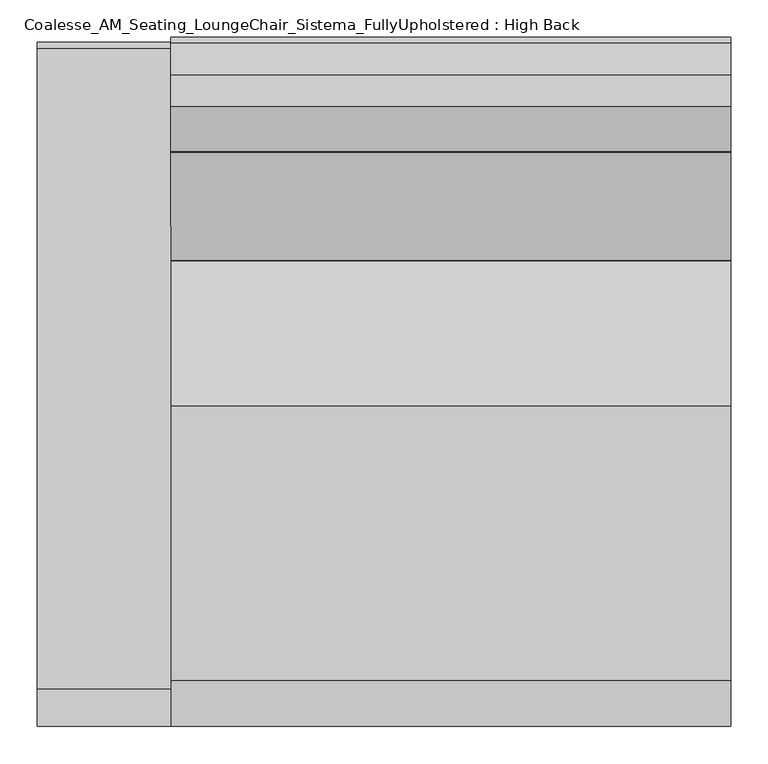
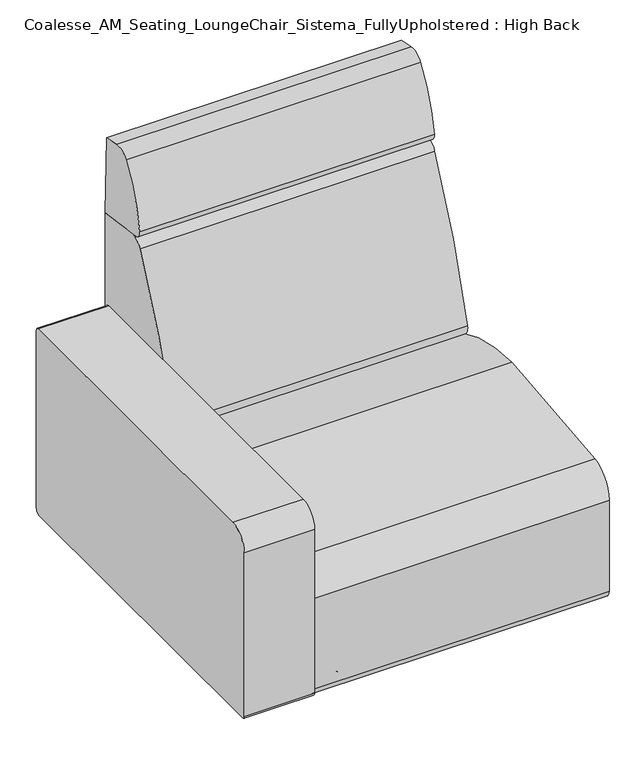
"""IFC4 building model written with IfcOpenShell, lengths in millimetres: furniture geometry, Coalesse_AM_Seating_LoungeChair_Sistema_FullyUpholstered : High Back."""

from ifc_helpers import new_model, si_unit, point, frame, frame_2d, origin, place, context, project, spatial, polyline, circle_curve, ellipse_curve, trimmed, segment, composite_curve, outline, extrude, source, transform, mapped, element, save
from ifc_brep_helpers import plane_surface, cylinder_surface, revolved_surface, advanced_brep


def coalesse_am_seating_loungechair_sistema_fullyupholstered_554325c9(model_context):
    return source(origin(), model_context, "Body", "SolidModel", [
        advanced_brep(
        [(-437.0342435, 376.5697714, 32.0111214), (-473.307853, 376.5697714, 32.0111214), (-473.307853, 376.5697714, 16.5557542), (-437.0342435, 376.5697714, 16.5557542), (-474.6015336, 376.5697714, 14.0167632), (-435.740563, 376.5697714, 14.0167632), (-478.9735198, 376.5697714, 10.8824382), (-431.3685767, 376.5697714, 10.8824382), (-480.1597362, 376.5697714, 8.4680454), (-430.1823604, 376.5697714, 8.4680454), (-480.1597362, 376.5697714, 3.1081764), (-430.1823604, 376.5697714, 3.1081764), (-476.5633616, 376.5697714, 0.0), (-433.7787349, 376.5697714, 0.0), (-455.1710483, 376.5697714, 0.0), (-455.1710483, 376.5697714, 34.4679682), (-462.2858273, 376.5697714, 34.4679682), (-448.0562693, 376.5697714, 34.4679682), (-462.2858273, 376.5697714, 32.0111214), (-448.0562693, 376.5697714, 32.0111214)],
        [
            (0, 1, circle_curve(frame((-455.1710483, 376.5697714, 32.0111214), z_axis=(0.0, 0.0, -1.0), x_axis=(-1.0, 0.0, 0.0)), 18.1368048)),
            (1, 2),
            (2, 3, circle_curve(frame((-455.1710483, 376.5697714, 16.5557542), z_axis=(0.0, 0.0, 1.0), x_axis=(-1.0, 0.0, 0.0)), 18.1368048)),
            (3, 0),
            (1, 0, circle_curve(frame((-455.1710483, 376.5697714, 32.0111214), z_axis=(0.0, 0.0, -1.0), x_axis=(-1.0, 0.0, 0.0)), 18.1368048)),
            (3, 2, circle_curve(frame((-455.1710483, 376.5697714, 16.5557542), z_axis=(0.0, 0.0, 1.0), x_axis=(-1.0, 0.0, 0.0)), 18.1368048)),
            (2, 4),
            (4, 5, circle_curve(frame((-455.1710483, 376.5697714, 14.0167632), z_axis=(0.0, 0.0, 1.0), x_axis=(-1.0, 0.0, 0.0)), 19.4304853)),
            (5, 3),
            (5, 4, circle_curve(frame((-455.1710483, 376.5697714, 14.0167632), z_axis=(0.0, 0.0, 1.0), x_axis=(-1.0, 0.0, 0.0)), 19.4304853)),
            (4, 6, circle_curve(frame((-432.6195632, 376.5697714, -49.1591113), z_axis=(0.0, -1.0, 0.0), x_axis=(1.0, 0.0, 0.0)), 75.8529957)),
            (6, 7, circle_curve(frame((-455.1710483, 376.5697714, 10.8824382), z_axis=(0.0, 0.0, 1.0), x_axis=(-1.0, 0.0, 0.0)), 23.8024715)),
            (7, 5, circle_curve(frame((-477.7225333, 376.5697714, -49.1591113), z_axis=(0.0, -1.0, 0.0), x_axis=(-1.0, 0.0, 0.0)), 75.8529957)),
            (7, 6, circle_curve(frame((-455.1710483, 376.5697714, 10.8824382), z_axis=(0.0, 0.0, 1.0), x_axis=(-1.0, 0.0, 0.0)), 23.8024715)),
            (6, 8, circle_curve(frame((-477.109533, 376.5697714, 8.4680454), z_axis=(0.0, -1.0, 0.0), x_axis=(1.0, 0.0, 0.0)), 3.0502032)),
            (8, 9, circle_curve(frame((-455.1710483, 376.5697714, 8.4680454), z_axis=(0.0, 0.0, 1.0), x_axis=(-1.0, 0.0, 0.0)), 24.9886879)),
            (9, 7, circle_curve(frame((-433.2325636, 376.5697714, 8.4680454), z_axis=(0.0, -1.0, 0.0), x_axis=(-1.0, 0.0, 0.0)), 3.0502032)),
            (9, 8, circle_curve(frame((-455.1710483, 376.5697714, 8.4680454), z_axis=(0.0, 0.0, 1.0), x_axis=(-1.0, 0.0, 0.0)), 24.9886879)),
            (8, 10),
            (10, 11, circle_curve(frame((-455.1710483, 376.5697714, 3.1081764), z_axis=(0.0, 0.0, 1.0), x_axis=(-1.0, 0.0, 0.0)), 24.9886879)),
            (11, 9),
            (11, 10, circle_curve(frame((-455.1710483, 376.5697714, 3.1081764), z_axis=(0.0, 0.0, 1.0), x_axis=(-1.0, 0.0, 0.0)), 24.9886879)),
            (10, 12, circle_curve(frame((-476.5633616, 376.5697714, 3.634715), z_axis=(0.0, -1.0, 0.0), x_axis=(1.0, 0.0, 0.0)), 3.634715)),
            (12, 13, circle_curve(frame((-455.1710483, 376.5697714, 0.0), z_axis=(0.0, 0.0, 1.0), x_axis=(-1.0, 0.0, 0.0)), 21.3923133)),
            (13, 11, circle_curve(frame((-433.7787349, 376.5697714, 3.634715), z_axis=(0.0, -1.0, 0.0), x_axis=(-1.0, 0.0, 0.0)), 3.634715)),
            (13, 12, circle_curve(frame((-455.1710483, 376.5697714, 0.0), z_axis=(0.0, 0.0, 1.0), x_axis=(-1.0, 0.0, 0.0)), 21.3923133)),
            (12, 14),
            (14, 13),
            (15, 16),
            (16, 17, circle_curve(frame((-455.1710483, 376.5697714, 34.4679682), z_axis=(0.0, 0.0, 1.0), x_axis=(-1.0, 0.0, 0.0)), 7.114779)),
            (17, 15),
            (17, 16, circle_curve(frame((-455.1710483, 376.5697714, 34.4679682), z_axis=(0.0, 0.0, 1.0), x_axis=(-1.0, 0.0, 0.0)), 7.114779)),
            (16, 18),
            (18, 19, circle_curve(frame((-455.1710483, 376.5697714, 32.0111214), z_axis=(0.0, 0.0, 1.0), x_axis=(-1.0, 0.0, 0.0)), 7.114779)),
            (19, 17),
            (19, 18, circle_curve(frame((-455.1710483, 376.5697714, 32.0111214), z_axis=(0.0, 0.0, 1.0), x_axis=(-1.0, 0.0, 0.0)), 7.114779)),
            (18, 1),
            (0, 19),
        ],
        [
            cylinder_surface(frame((-455.1710483, 376.5697714, 22.0491407), z_axis=(0.0, 0.0, 1.0), x_axis=(-1.0, 0.0, 0.0)), 18.1368048),
            revolved_surface(polyline([(-474.6015336, 376.5697714, 14.0167632), (-473.307853, 376.5697714, 16.5557542)]), (-455.1710483, 376.5697714, 22.0491407), (0.0, 0.0, 1.0)),
            revolved_surface(trimmed(ellipse_curve(frame((-432.6195632, 376.5697714, -49.1591113), z_axis=(0.0, 1.0, 0.0), x_axis=(1.0, 0.0, 0.0)), 75.8529957, 75.8529957), [point((-478.9735198, 376.5697714, 10.8824382))], [point((-474.6015336, 376.5697714, 14.0167632))], True, "CARTESIAN"), (-455.1710483, 376.5697714, 22.0491407), (0.0, 0.0, 1.0)),
            revolved_surface(trimmed(ellipse_curve(frame((-477.109533, 376.5697714, 8.4680454), z_axis=(0.0, 1.0, 0.0), x_axis=(1.0, 0.0, 0.0)), 3.0502032, 3.0502032), [point((-480.1597362, 376.5697714, 8.4680454))], [point((-478.9735198, 376.5697714, 10.8824382))], True, "CARTESIAN"), (-455.1710483, 376.5697714, 22.0491407), (0.0, 0.0, 1.0)),
            cylinder_surface(frame((-455.1710483, 376.5697714, 22.0491407), z_axis=(0.0, 0.0, 1.0), x_axis=(-1.0, 0.0, 0.0)), 24.9886879),
            revolved_surface(trimmed(ellipse_curve(frame((-476.5633616, 376.5697714, 3.634715), z_axis=(0.0, 1.0, 0.0), x_axis=(1.0, 0.0, 0.0)), 3.634715, 3.634715), [point((-476.5633616, 376.5697714, 0.0))], [point((-480.1597362, 376.5697714, 3.1081764))], True, "CARTESIAN"), (-455.1710483, 376.5697714, 22.0491407), (0.0, 0.0, 1.0)),
            plane_surface(frame((-455.1710483, 376.5697714, 0.0), z_axis=(0.0, 0.0, -1.0), x_axis=(-1.0, 0.0, 0.0))),
            plane_surface(frame((-455.1710483, 376.5697714, 34.4679682), z_axis=(0.0, 0.0, 1.0), x_axis=(-1.0, 0.0, 0.0))),
            cylinder_surface(frame((-455.1710483, 376.5697714, 22.0491407), z_axis=(0.0, 0.0, 1.0), x_axis=(-1.0, 0.0, 0.0)), 7.114779),
            plane_surface(frame((-455.1710483, 376.5697714, 32.0111214), z_axis=(0.0, 0.0, 1.0), x_axis=(-1.0, 0.0, 0.0))),
        ],
        [
            (0, [[1, 2, 3, 4]]),
            (0, [[5, -4, 6, -2]]),
            (1, [[-3, 7, 8, 9]]),
            (1, [[-6, -9, 10, -7]]),
            (2, [[-8, 11, 12, 13]]),
            (2, [[-10, -13, 14, -11]]),
            (3, [[-12, 15, 16, 17]]),
            (3, [[-14, -17, 18, -15]]),
            (4, [[-16, 19, 20, 21]]),
            (4, [[-18, -21, 22, -19]]),
            (5, [[-20, 23, 24, 25]]),
            (5, [[-22, -25, 26, -23]]),
            (6, [[-24, 27, 28]]),
            (6, [[-26, -28, -27]]),
            (7, [[29, 30, 31]]),
            (7, [[-31, 32, -29]]),
            (8, [[-30, 33, 34, 35]]),
            (8, [[-32, -35, 36, -33]]),
            (9, [[-34, 37, -1, 38]]),
            (9, [[-36, -38, -5, -37]]),
        ],
    ),
        advanced_brep(
        [(-437.0342435, -359.8207817, 16.5557542), (-473.307853, -359.8207817, 16.5557542), (-473.307853, -359.8207817, 32.0111214), (-437.0342435, -359.8207817, 32.0111214), (-435.740563, -359.8207817, 14.0167632), (-474.6015336, -359.8207817, 14.0167632), (-431.3685767, -359.8207817, 10.8824382), (-478.9735198, -359.8207817, 10.8824382), (-430.1823604, -359.8207817, 8.4680454), (-480.1597362, -359.8207817, 8.4680454), (-430.1823604, -359.8207817, 3.1081764), (-480.1597362, -359.8207817, 3.1081764), (-433.7787349, -359.8207817, 0.0), (-476.5633616, -359.8207817, 0.0), (-455.1710483, -359.8207817, 0.0), (-448.0562693, -359.8207817, 34.4679682), (-462.2858273, -359.8207817, 34.4679682), (-455.1710483, -359.8207817, 34.4679682), (-448.0562693, -359.8207817, 32.0111214), (-462.2858273, -359.8207817, 32.0111214)],
        [
            (0, 1, circle_curve(frame((-455.1710483, -359.8207817, 16.5557542), z_axis=(0.0, 0.0, 1.0), x_axis=(-1.0, 0.0, 0.0)), 18.1368048)),
            (1, 2),
            (2, 3, circle_curve(frame((-455.1710483, -359.8207817, 32.0111214), z_axis=(0.0, 0.0, -1.0), x_axis=(-1.0, 0.0, 0.0)), 18.1368048)),
            (3, 0),
            (1, 0, circle_curve(frame((-455.1710483, -359.8207817, 16.5557542), z_axis=(0.0, 0.0, 1.0), x_axis=(-1.0, 0.0, 0.0)), 18.1368048)),
            (3, 2, circle_curve(frame((-455.1710483, -359.8207817, 32.0111214), z_axis=(0.0, 0.0, -1.0), x_axis=(-1.0, 0.0, 0.0)), 18.1368048)),
            (4, 5, circle_curve(frame((-455.1710483, -359.8207817, 14.0167632), z_axis=(0.0, 0.0, 1.0), x_axis=(-1.0, 0.0, 0.0)), 19.4304853)),
            (5, 1),
            (0, 4),
            (5, 4, circle_curve(frame((-455.1710483, -359.8207817, 14.0167632), z_axis=(0.0, 0.0, 1.0), x_axis=(-1.0, 0.0, 0.0)), 19.4304853)),
            (6, 7, circle_curve(frame((-455.1710483, -359.8207817, 10.8824382), z_axis=(0.0, 0.0, 1.0), x_axis=(-1.0, 0.0, 0.0)), 23.8024715)),
            (7, 5, circle_curve(frame((-432.6195632, -359.8207817, -49.1591113), z_axis=(0.0, 1.0, 0.0), x_axis=(1.0, 0.0, 0.0)), 75.8529957)),
            (4, 6, circle_curve(frame((-477.7225333, -359.8207817, -49.1591113), z_axis=(0.0, 1.0, 0.0), x_axis=(-1.0, 0.0, 0.0)), 75.8529957)),
            (7, 6, circle_curve(frame((-455.1710483, -359.8207817, 10.8824382), z_axis=(0.0, 0.0, 1.0), x_axis=(-1.0, 0.0, 0.0)), 23.8024715)),
            (8, 9, circle_curve(frame((-455.1710483, -359.8207817, 8.4680454), z_axis=(0.0, 0.0, 1.0), x_axis=(-1.0, 0.0, 0.0)), 24.9886879)),
            (9, 7, circle_curve(frame((-477.109533, -359.8207817, 8.4680454), z_axis=(0.0, 1.0, 0.0), x_axis=(1.0, 0.0, 0.0)), 3.0502032)),
            (6, 8, circle_curve(frame((-433.2325636, -359.8207817, 8.4680454), z_axis=(0.0, 1.0, 0.0), x_axis=(-1.0, 0.0, 0.0)), 3.0502032)),
            (9, 8, circle_curve(frame((-455.1710483, -359.8207817, 8.4680454), z_axis=(0.0, 0.0, 1.0), x_axis=(-1.0, 0.0, 0.0)), 24.9886879)),
            (10, 11, circle_curve(frame((-455.1710483, -359.8207817, 3.1081764), z_axis=(0.0, 0.0, 1.0), x_axis=(-1.0, 0.0, 0.0)), 24.9886879)),
            (11, 9),
            (8, 10),
            (11, 10, circle_curve(frame((-455.1710483, -359.8207817, 3.1081764), z_axis=(0.0, 0.0, 1.0), x_axis=(-1.0, 0.0, 0.0)), 24.9886879)),
            (12, 13, circle_curve(frame((-455.1710483, -359.8207817, 0.0), z_axis=(0.0, 0.0, 1.0), x_axis=(-1.0, 0.0, 0.0)), 21.3923133)),
            (13, 11, circle_curve(frame((-476.5633616, -359.8207817, 3.634715), z_axis=(0.0, 1.0, 0.0), x_axis=(1.0, 0.0, 0.0)), 3.634715)),
            (10, 12, circle_curve(frame((-433.7787349, -359.8207817, 3.634715), z_axis=(0.0, 1.0, 0.0), x_axis=(-1.0, 0.0, 0.0)), 3.634715)),
            (13, 12, circle_curve(frame((-455.1710483, -359.8207817, 0.0), z_axis=(0.0, 0.0, 1.0), x_axis=(-1.0, 0.0, 0.0)), 21.3923133)),
            (14, 13),
            (12, 14),
            (15, 16, circle_curve(frame((-455.1710483, -359.8207817, 34.4679682), z_axis=(0.0, 0.0, 1.0), x_axis=(-1.0, 0.0, 0.0)), 7.114779)),
            (16, 17),
            (17, 15),
            (16, 15, circle_curve(frame((-455.1710483, -359.8207817, 34.4679682), z_axis=(0.0, 0.0, 1.0), x_axis=(-1.0, 0.0, 0.0)), 7.114779)),
            (18, 19, circle_curve(frame((-455.1710483, -359.8207817, 32.0111214), z_axis=(0.0, 0.0, 1.0), x_axis=(-1.0, 0.0, 0.0)), 7.114779)),
            (19, 16),
            (15, 18),
            (19, 18, circle_curve(frame((-455.1710483, -359.8207817, 32.0111214), z_axis=(0.0, 0.0, 1.0), x_axis=(-1.0, 0.0, 0.0)), 7.114779)),
            (2, 19),
            (18, 3),
        ],
        [
            cylinder_surface(frame((-455.1710483, -359.8207817, 22.0491407), z_axis=(0.0, 0.0, -1.0), x_axis=(-1.0, 0.0, 0.0)), 18.1368048),
            revolved_surface(polyline([(-473.307853, -359.8207817, 16.5557542), (-474.6015336, -359.8207817, 14.0167632)]), (-455.1710483, -359.8207817, 22.0491407), (0.0, 0.0, -1.0)),
            revolved_surface(trimmed(ellipse_curve(frame((-432.6195632, -359.8207817, -49.1591113), z_axis=(0.0, -1.0, 0.0), x_axis=(1.0, 0.0, 0.0)), 75.8529957, 75.8529957), [point((-474.6015336, -359.8207817, 14.0167632))], [point((-478.9735198, -359.8207817, 10.8824382))], True, "CARTESIAN"), (-455.1710483, -359.8207817, 22.0491407), (0.0, 0.0, -1.0)),
            revolved_surface(trimmed(ellipse_curve(frame((-477.109533, -359.8207817, 8.4680454), z_axis=(0.0, -1.0, 0.0), x_axis=(1.0, 0.0, 0.0)), 3.0502032, 3.0502032), [point((-478.9735198, -359.8207817, 10.8824382))], [point((-480.1597362, -359.8207817, 8.4680454))], True, "CARTESIAN"), (-455.1710483, -359.8207817, 22.0491407), (0.0, 0.0, -1.0)),
            cylinder_surface(frame((-455.1710483, -359.8207817, 22.0491407), z_axis=(0.0, 0.0, -1.0), x_axis=(-1.0, 0.0, 0.0)), 24.9886879),
            revolved_surface(trimmed(ellipse_curve(frame((-476.5633616, -359.8207817, 3.634715), z_axis=(0.0, -1.0, 0.0), x_axis=(1.0, 0.0, 0.0)), 3.634715, 3.634715), [point((-480.1597362, -359.8207817, 3.1081764))], [point((-476.5633616, -359.8207817, 0.0))], True, "CARTESIAN"), (-455.1710483, -359.8207817, 22.0491407), (0.0, 0.0, -1.0)),
            plane_surface(frame((-455.1710483, -359.8207817, 0.0), z_axis=(0.0, 0.0, -1.0), x_axis=(-1.0, 0.0, 0.0))),
            plane_surface(frame((-455.1710483, -359.8207817, 34.4679682), z_axis=(0.0, 0.0, 1.0), x_axis=(-1.0, 0.0, 0.0))),
            cylinder_surface(frame((-455.1710483, -359.8207817, 22.0491407), z_axis=(0.0, 0.0, -1.0), x_axis=(-1.0, 0.0, 0.0)), 7.114779),
            plane_surface(frame((-455.1710483, -359.8207817, 32.0111214), z_axis=(0.0, 0.0, 1.0), x_axis=(-1.0, 0.0, 0.0))),
        ],
        [
            (0, [[1, 2, 3, 4]]),
            (0, [[5, -4, 6, -2]]),
            (1, [[7, 8, -1, 9]]),
            (1, [[10, -9, -5, -8]]),
            (2, [[11, 12, -7, 13]]),
            (2, [[14, -13, -10, -12]]),
            (3, [[15, 16, -11, 17]]),
            (3, [[18, -17, -14, -16]]),
            (4, [[19, 20, -15, 21]]),
            (4, [[22, -21, -18, -20]]),
            (5, [[23, 24, -19, 25]]),
            (5, [[26, -25, -22, -24]]),
            (6, [[27, -23, 28]]),
            (6, [[-28, -26, -27]]),
            (7, [[29, 30, 31]]),
            (7, [[32, -31, -30]]),
            (8, [[33, 34, -29, 35]]),
            (8, [[36, -35, -32, -34]]),
            (9, [[-3, 37, -33, 38]]),
            (9, [[-6, -38, -36, -37]]),
        ],
    ),
        extrude(outline(composite_curve([segment(polyline([(-461.2704381, 44.1353341), (-461.2704381, 487.0244726)]), True, "CONTINUOUS"), segment(trimmed(circle_curve(frame_2d((-410.4704381, 487.0244726)), 50.8), [point((-461.2704381, 487.0244726))], [point((-410.4704381, 537.8244726))], False, "CARTESIAN"), True, "CONTINUOUS"), segment(polyline([(-410.4704381, 537.8244726), (450.1139321, 537.8244726)]), True, "CONTINUOUS"), segment(trimmed(circle_curve(frame_2d((450.1139321, 530.2044726)), 7.62), [point((450.1139321, 537.8244726))], [point((457.7339321, 530.2044726))], False, "CARTESIAN"), True, "CONTINUOUS"), segment(polyline([(457.7339321, 530.2044726), (457.7339321, 49.2153341)]), True, "CONTINUOUS"), segment(trimmed(circle_curve(frame_2d((445.0339321, 49.2153341)), 12.7), [point((457.7339321, 49.2153341))], [point((445.0339321, 36.5153341))], False, "CARTESIAN"), True, "CONTINUOUS"), segment(polyline([(445.0339321, 36.5153341), (-453.6504381, 36.5153341)]), True, "CONTINUOUS"), segment(trimmed(circle_curve(frame_2d((-453.6504381, 44.1353341)), 7.62), [point((-453.6504381, 36.5153341))], [point((-461.2704381, 44.1353341))], False, "CARTESIAN"), True, "CONTINUOUS")], self_intersect=False)), frame((-554.3698424, 0.0, 0.0), z_axis=(1.0, 0.0, 0.0), x_axis=(0.0, 1.0, 0.0)), (0.0, 0.0, 1.0), 179.5663651),
        extrude(outline(composite_curve([segment(polyline([(-461.2704381, 44.1353341), (-461.2704381, 487.0244726)]), True, "CONTINUOUS"), segment(trimmed(circle_curve(frame_2d((-410.4704381, 487.0244726)), 50.8), [point((-461.2704381, 487.0244726))], [point((-410.4704381, 537.8244726))], False, "CARTESIAN"), True, "CONTINUOUS"), segment(polyline([(-410.4704381, 537.8244726), (450.1139321, 537.8244726)]), True, "CONTINUOUS"), segment(trimmed(circle_curve(frame_2d((450.1139321, 530.2044726)), 7.62), [point((450.1139321, 537.8244726))], [point((457.7339321, 530.2044726))], False, "CARTESIAN"), True, "CONTINUOUS"), segment(polyline([(457.7339321, 530.2044726), (457.7339321, 49.2153341)]), True, "CONTINUOUS"), segment(trimmed(circle_curve(frame_2d((445.0339321, 49.2153341)), 12.7), [point((457.7339321, 49.2153341))], [point((445.0339321, 36.5153341))], False, "CARTESIAN"), True, "CONTINUOUS"), segment(polyline([(445.0339321, 36.5153341), (-453.6504381, 36.5153341)]), True, "CONTINUOUS"), segment(trimmed(circle_curve(frame_2d((-453.6504381, 44.1353341)), 7.62), [point((-453.6504381, 36.5153341))], [point((-461.2704381, 44.1353341))], False, "CARTESIAN"), True, "CONTINUOUS")], self_intersect=False)), frame((-554.3698424, 0.0, 0.0), z_axis=(1.0, 0.0, 0.0), x_axis=(0.0, 1.0, 0.0)), (0.0, 0.0, 1.0), 179.5663651),
        advanced_brep(
        [(-269.1276038, 379.5141881, 32.0111214), (-305.4012134, 379.5141881, 32.0111214), (-305.4012134, 379.5141881, 16.5557542), (-269.1276038, 379.5141881, 16.5557542), (-306.6948939, 379.5141881, 14.0167632), (-267.8339233, 379.5141881, 14.0167632), (-311.0668802, 379.5141881, 10.8824382), (-263.4619371, 379.5141881, 10.8824382), (-312.2530965, 379.5141881, 8.4680454), (-262.2757207, 379.5141881, 8.4680454), (-312.2530965, 379.5141881, 3.1081764), (-262.2757207, 379.5141881, 3.1081764), (-308.6567219, 379.5141881, 0.0), (-265.8720953, 379.5141881, 0.0), (-287.2644086, 379.5141881, 0.0), (-287.2644086, 379.5141881, 34.4679682), (-294.3791876, 379.5141881, 34.4679682), (-280.1496296, 379.5141881, 34.4679682), (-294.3791876, 379.5141881, 32.0111214), (-280.1496296, 379.5141881, 32.0111214)],
        [
            (0, 1, circle_curve(frame((-287.2644086, 379.5141881, 32.0111214), z_axis=(0.0, 0.0, -1.0), x_axis=(-1.0, 0.0, 0.0)), 18.1368048)),
            (1, 2),
            (2, 3, circle_curve(frame((-287.2644086, 379.5141881, 16.5557542), z_axis=(0.0, 0.0, 1.0), x_axis=(-1.0, 0.0, 0.0)), 18.1368048)),
            (3, 0),
            (1, 0, circle_curve(frame((-287.2644086, 379.5141881, 32.0111214), z_axis=(0.0, 0.0, -1.0), x_axis=(-1.0, 0.0, 0.0)), 18.1368048)),
            (3, 2, circle_curve(frame((-287.2644086, 379.5141881, 16.5557542), z_axis=(0.0, 0.0, 1.0), x_axis=(-1.0, 0.0, 0.0)), 18.1368048)),
            (2, 4),
            (4, 5, circle_curve(frame((-287.2644086, 379.5141881, 14.0167632), z_axis=(0.0, 0.0, 1.0), x_axis=(-1.0, 0.0, 0.0)), 19.4304853)),
            (5, 3),
            (5, 4, circle_curve(frame((-287.2644086, 379.5141881, 14.0167632), z_axis=(0.0, 0.0, 1.0), x_axis=(-1.0, 0.0, 0.0)), 19.4304853)),
            (4, 6, circle_curve(frame((-264.7129236, 379.5141881, -49.1591113), z_axis=(0.0, -1.0, 0.0), x_axis=(1.0, 0.0, 0.0)), 75.8529957)),
            (6, 7, circle_curve(frame((-287.2644086, 379.5141881, 10.8824382), z_axis=(0.0, 0.0, 1.0), x_axis=(-1.0, 0.0, 0.0)), 23.8024715)),
            (7, 5, circle_curve(frame((-309.8158936, 379.5141881, -49.1591113), z_axis=(0.0, -1.0, 0.0), x_axis=(-1.0, 0.0, 0.0)), 75.8529957)),
            (7, 6, circle_curve(frame((-287.2644086, 379.5141881, 10.8824382), z_axis=(0.0, 0.0, 1.0), x_axis=(-1.0, 0.0, 0.0)), 23.8024715)),
            (6, 8, circle_curve(frame((-309.2028933, 379.5141881, 8.4680454), z_axis=(0.0, -1.0, 0.0), x_axis=(1.0, 0.0, 0.0)), 3.0502032)),
            (8, 9, circle_curve(frame((-287.2644086, 379.5141881, 8.4680454), z_axis=(0.0, 0.0, 1.0), x_axis=(-1.0, 0.0, 0.0)), 24.9886879)),
            (9, 7, circle_curve(frame((-265.3259239, 379.5141881, 8.4680454), z_axis=(0.0, -1.0, 0.0), x_axis=(-1.0, 0.0, 0.0)), 3.0502032)),
            (9, 8, circle_curve(frame((-287.2644086, 379.5141881, 8.4680454), z_axis=(0.0, 0.0, 1.0), x_axis=(-1.0, 0.0, 0.0)), 24.9886879)),
            (8, 10),
            (10, 11, circle_curve(frame((-287.2644086, 379.5141881, 3.1081764), z_axis=(0.0, 0.0, 1.0), x_axis=(-1.0, 0.0, 0.0)), 24.9886879)),
            (11, 9),
            (11, 10, circle_curve(frame((-287.2644086, 379.5141881, 3.1081764), z_axis=(0.0, 0.0, 1.0), x_axis=(-1.0, 0.0, 0.0)), 24.9886879)),
            (10, 12, circle_curve(frame((-308.6567219, 379.5141881, 3.634715), z_axis=(0.0, -1.0, 0.0), x_axis=(1.0, 0.0, 0.0)), 3.634715)),
            (12, 13, circle_curve(frame((-287.2644086, 379.5141881, 0.0), z_axis=(0.0, 0.0, 1.0), x_axis=(-1.0, 0.0, 0.0)), 21.3923133)),
            (13, 11, circle_curve(frame((-265.8720953, 379.5141881, 3.634715), z_axis=(0.0, -1.0, 0.0), x_axis=(-1.0, 0.0, 0.0)), 3.634715)),
            (13, 12, circle_curve(frame((-287.2644086, 379.5141881, 0.0), z_axis=(0.0, 0.0, 1.0), x_axis=(-1.0, 0.0, 0.0)), 21.3923133)),
            (12, 14),
            (14, 13),
            (15, 16),
            (16, 17, circle_curve(frame((-287.2644086, 379.5141881, 34.4679682), z_axis=(0.0, 0.0, 1.0), x_axis=(-1.0, 0.0, 0.0)), 7.114779)),
            (17, 15),
            (17, 16, circle_curve(frame((-287.2644086, 379.5141881, 34.4679682), z_axis=(0.0, 0.0, 1.0), x_axis=(-1.0, 0.0, 0.0)), 7.114779)),
            (16, 18),
            (18, 19, circle_curve(frame((-287.2644086, 379.5141881, 32.0111214), z_axis=(0.0, 0.0, 1.0), x_axis=(-1.0, 0.0, 0.0)), 7.114779)),
            (19, 17),
            (19, 18, circle_curve(frame((-287.2644086, 379.5141881, 32.0111214), z_axis=(0.0, 0.0, 1.0), x_axis=(-1.0, 0.0, 0.0)), 7.114779)),
            (18, 1),
            (0, 19),
        ],
        [
            cylinder_surface(frame((-287.2644086, 379.5141881, 22.0491407), z_axis=(0.0, 0.0, 1.0), x_axis=(-1.0, 0.0, 0.0)), 18.1368048),
            revolved_surface(polyline([(-306.6948939, 379.5141881, 14.0167632), (-305.4012134, 379.5141881, 16.5557542)]), (-287.2644086, 379.5141881, 22.0491407), (0.0, 0.0, 1.0)),
            revolved_surface(trimmed(ellipse_curve(frame((-264.7129236, 379.5141881, -49.1591113), z_axis=(0.0, 1.0, 0.0), x_axis=(1.0, 0.0, 0.0)), 75.8529957, 75.8529957), [point((-311.0668802, 379.5141881, 10.8824382))], [point((-306.6948939, 379.5141881, 14.0167632))], True, "CARTESIAN"), (-287.2644086, 379.5141881, 22.0491407), (0.0, 0.0, 1.0)),
            revolved_surface(trimmed(ellipse_curve(frame((-309.2028933, 379.5141881, 8.4680454), z_axis=(0.0, 1.0, 0.0), x_axis=(1.0, 0.0, 0.0)), 3.0502032, 3.0502032), [point((-312.2530965, 379.5141881, 8.4680454))], [point((-311.0668802, 379.5141881, 10.8824382))], True, "CARTESIAN"), (-287.2644086, 379.5141881, 22.0491407), (0.0, 0.0, 1.0)),
            cylinder_surface(frame((-287.2644086, 379.5141881, 22.0491407), z_axis=(0.0, 0.0, 1.0), x_axis=(-1.0, 0.0, 0.0)), 24.9886879),
            revolved_surface(trimmed(ellipse_curve(frame((-308.6567219, 379.5141881, 3.634715), z_axis=(0.0, 1.0, 0.0), x_axis=(1.0, 0.0, 0.0)), 3.634715, 3.634715), [point((-308.6567219, 379.5141881, 0.0))], [point((-312.2530965, 379.5141881, 3.1081764))], True, "CARTESIAN"), (-287.2644086, 379.5141881, 22.0491407), (0.0, 0.0, 1.0)),
            plane_surface(frame((-287.2644086, 379.5141881, 0.0), z_axis=(0.0, 0.0, -1.0), x_axis=(-1.0, 0.0, 0.0))),
            plane_surface(frame((-287.2644086, 379.5141881, 34.4679682), z_axis=(0.0, 0.0, 1.0), x_axis=(-1.0, 0.0, 0.0))),
            cylinder_surface(frame((-287.2644086, 379.5141881, 22.0491407), z_axis=(0.0, 0.0, 1.0), x_axis=(-1.0, 0.0, 0.0)), 7.114779),
            plane_surface(frame((-287.2644086, 379.5141881, 32.0111214), z_axis=(0.0, 0.0, 1.0), x_axis=(-1.0, 0.0, 0.0))),
        ],
        [
            (0, [[1, 2, 3, 4]]),
            (0, [[5, -4, 6, -2]]),
            (1, [[-3, 7, 8, 9]]),
            (1, [[-6, -9, 10, -7]]),
            (2, [[-8, 11, 12, 13]]),
            (2, [[-10, -13, 14, -11]]),
            (3, [[-12, 15, 16, 17]]),
            (3, [[-14, -17, 18, -15]]),
            (4, [[-16, 19, 20, 21]]),
            (4, [[-18, -21, 22, -19]]),
            (5, [[-20, 23, 24, 25]]),
            (5, [[-22, -25, 26, -23]]),
            (6, [[-24, 27, 28]]),
            (6, [[-26, -28, -27]]),
            (7, [[29, 30, 31]]),
            (7, [[-31, 32, -29]]),
            (8, [[-30, 33, 34, 35]]),
            (8, [[-32, -35, 36, -33]]),
            (9, [[-34, 37, -1, 38]]),
            (9, [[-36, -38, -5, -37]]),
        ],
    ),
        advanced_brep(
        [(269.1276038, 379.5141881, 16.5557542), (305.4012134, 379.5141881, 16.5557542), (305.4012134, 379.5141881, 32.0111214), (269.1276038, 379.5141881, 32.0111214), (267.8339233, 379.5141881, 14.0167632), (306.6948939, 379.5141881, 14.0167632), (263.4619371, 379.5141881, 10.8824382), (311.0668802, 379.5141881, 10.8824382), (262.2757207, 379.5141881, 8.4680454), (312.2530965, 379.5141881, 8.4680454), (262.2757207, 379.5141881, 3.1081764), (312.2530965, 379.5141881, 3.1081764), (265.8720953, 379.5141881, 0.0), (308.6567219, 379.5141881, 0.0), (287.2644086, 379.5141881, 0.0), (280.1496296, 379.5141881, 34.4679682), (294.3791876, 379.5141881, 34.4679682), (287.2644086, 379.5141881, 34.4679682), (280.1496296, 379.5141881, 32.0111214), (294.3791876, 379.5141881, 32.0111214)],
        [
            (0, 1, circle_curve(frame((287.2644086, 379.5141881, 16.5557542), z_axis=(0.0, 0.0, 1.0), x_axis=(1.0, 0.0, 0.0)), 18.1368048)),
            (1, 2),
            (2, 3, circle_curve(frame((287.2644086, 379.5141881, 32.0111214), z_axis=(0.0, 0.0, -1.0), x_axis=(1.0, 0.0, 0.0)), 18.1368048)),
            (3, 0),
            (1, 0, circle_curve(frame((287.2644086, 379.5141881, 16.5557542), z_axis=(0.0, 0.0, 1.0), x_axis=(1.0, 0.0, 0.0)), 18.1368048)),
            (3, 2, circle_curve(frame((287.2644086, 379.5141881, 32.0111214), z_axis=(0.0, 0.0, -1.0), x_axis=(1.0, 0.0, 0.0)), 18.1368048)),
            (4, 5, circle_curve(frame((287.2644086, 379.5141881, 14.0167632), z_axis=(0.0, 0.0, 1.0), x_axis=(1.0, 0.0, 0.0)), 19.4304853)),
            (5, 1),
            (0, 4),
            (5, 4, circle_curve(frame((287.2644086, 379.5141881, 14.0167632), z_axis=(0.0, 0.0, 1.0), x_axis=(1.0, 0.0, 0.0)), 19.4304853)),
            (6, 7, circle_curve(frame((287.2644086, 379.5141881, 10.8824382), z_axis=(0.0, 0.0, 1.0), x_axis=(1.0, 0.0, 0.0)), 23.8024715)),
            (7, 5, circle_curve(frame((264.7129236, 379.5141881, -49.1591113), z_axis=(0.0, -1.0, 0.0), x_axis=(-1.0, 0.0, 0.0)), 75.8529957)),
            (4, 6, circle_curve(frame((309.8158936, 379.5141881, -49.1591113), z_axis=(0.0, -1.0, 0.0), x_axis=(1.0, 0.0, 0.0)), 75.8529957)),
            (7, 6, circle_curve(frame((287.2644086, 379.5141881, 10.8824382), z_axis=(0.0, 0.0, 1.0), x_axis=(1.0, 0.0, 0.0)), 23.8024715)),
            (8, 9, circle_curve(frame((287.2644086, 379.5141881, 8.4680454), z_axis=(0.0, 0.0, 1.0), x_axis=(1.0, 0.0, 0.0)), 24.9886879)),
            (9, 7, circle_curve(frame((309.2028933, 379.5141881, 8.4680454), z_axis=(0.0, -1.0, 0.0), x_axis=(-1.0, 0.0, 0.0)), 3.0502032)),
            (6, 8, circle_curve(frame((265.3259239, 379.5141881, 8.4680454), z_axis=(0.0, -1.0, 0.0), x_axis=(1.0, 0.0, 0.0)), 3.0502032)),
            (9, 8, circle_curve(frame((287.2644086, 379.5141881, 8.4680454), z_axis=(0.0, 0.0, 1.0), x_axis=(1.0, 0.0, 0.0)), 24.9886879)),
            (10, 11, circle_curve(frame((287.2644086, 379.5141881, 3.1081764), z_axis=(0.0, 0.0, 1.0), x_axis=(1.0, 0.0, 0.0)), 24.9886879)),
            (11, 9),
            (8, 10),
            (11, 10, circle_curve(frame((287.2644086, 379.5141881, 3.1081764), z_axis=(0.0, 0.0, 1.0), x_axis=(1.0, 0.0, 0.0)), 24.9886879)),
            (12, 13, circle_curve(frame((287.2644086, 379.5141881, 0.0), z_axis=(0.0, 0.0, 1.0), x_axis=(1.0, 0.0, 0.0)), 21.3923133)),
            (13, 11, circle_curve(frame((308.6567219, 379.5141881, 3.634715), z_axis=(0.0, -1.0, 0.0), x_axis=(-1.0, 0.0, 0.0)), 3.634715)),
            (10, 12, circle_curve(frame((265.8720953, 379.5141881, 3.634715), z_axis=(0.0, -1.0, 0.0), x_axis=(1.0, 0.0, 0.0)), 3.634715)),
            (13, 12, circle_curve(frame((287.2644086, 379.5141881, 0.0), z_axis=(0.0, 0.0, 1.0), x_axis=(1.0, 0.0, 0.0)), 21.3923133)),
            (14, 13),
            (12, 14),
            (15, 16, circle_curve(frame((287.2644086, 379.5141881, 34.4679682), z_axis=(0.0, 0.0, 1.0), x_axis=(1.0, 0.0, 0.0)), 7.114779)),
            (16, 17),
            (17, 15),
            (16, 15, circle_curve(frame((287.2644086, 379.5141881, 34.4679682), z_axis=(0.0, 0.0, 1.0), x_axis=(1.0, 0.0, 0.0)), 7.114779)),
            (18, 19, circle_curve(frame((287.2644086, 379.5141881, 32.0111214), z_axis=(0.0, 0.0, 1.0), x_axis=(1.0, 0.0, 0.0)), 7.114779)),
            (19, 16),
            (15, 18),
            (19, 18, circle_curve(frame((287.2644086, 379.5141881, 32.0111214), z_axis=(0.0, 0.0, 1.0), x_axis=(1.0, 0.0, 0.0)), 7.114779)),
            (2, 19),
            (18, 3),
        ],
        [
            cylinder_surface(frame((287.2644086, 379.5141881, 22.0491407), z_axis=(0.0, 0.0, -1.0), x_axis=(1.0, 0.0, 0.0)), 18.1368048),
            revolved_surface(polyline([(305.4012134, 379.5141881, 16.5557542), (306.6948939, 379.5141881, 14.0167632)]), (287.2644086, 379.5141881, 22.0491407), (0.0, 0.0, -1.0)),
            revolved_surface(trimmed(ellipse_curve(frame((264.7129236, 379.5141881, -49.1591113), z_axis=(0.0, 1.0, 0.0), x_axis=(-1.0, 0.0, 0.0)), 75.8529957, 75.8529957), [point((306.6948939, 379.5141881, 14.0167632))], [point((311.0668802, 379.5141881, 10.8824382))], True, "CARTESIAN"), (287.2644086, 379.5141881, 22.0491407), (0.0, 0.0, -1.0)),
            revolved_surface(trimmed(ellipse_curve(frame((309.2028933, 379.5141881, 8.4680454), z_axis=(0.0, 1.0, 0.0), x_axis=(-1.0, 0.0, 0.0)), 3.0502032, 3.0502032), [point((311.0668802, 379.5141881, 10.8824382))], [point((312.2530965, 379.5141881, 8.4680454))], True, "CARTESIAN"), (287.2644086, 379.5141881, 22.0491407), (0.0, 0.0, -1.0)),
            cylinder_surface(frame((287.2644086, 379.5141881, 22.0491407), z_axis=(0.0, 0.0, -1.0), x_axis=(1.0, 0.0, 0.0)), 24.9886879),
            revolved_surface(trimmed(ellipse_curve(frame((308.6567219, 379.5141881, 3.634715), z_axis=(0.0, 1.0, 0.0), x_axis=(-1.0, 0.0, 0.0)), 3.634715, 3.634715), [point((312.2530965, 379.5141881, 3.1081764))], [point((308.6567219, 379.5141881, 0.0))], True, "CARTESIAN"), (287.2644086, 379.5141881, 22.0491407), (0.0, 0.0, -1.0)),
            plane_surface(frame((287.2644086, 379.5141881, 0.0), z_axis=(0.0, 0.0, -1.0), x_axis=(1.0, 0.0, 0.0))),
            plane_surface(frame((287.2644086, 379.5141881, 34.4679682), z_axis=(0.0, 0.0, 1.0), x_axis=(1.0, 0.0, 0.0))),
            cylinder_surface(frame((287.2644086, 379.5141881, 22.0491407), z_axis=(0.0, 0.0, -1.0), x_axis=(1.0, 0.0, 0.0)), 7.114779),
            plane_surface(frame((287.2644086, 379.5141881, 32.0111214), z_axis=(0.0, 0.0, 1.0), x_axis=(1.0, 0.0, 0.0))),
        ],
        [
            (0, [[1, 2, 3, 4]]),
            (0, [[5, -4, 6, -2]]),
            (1, [[7, 8, -1, 9]]),
            (1, [[10, -9, -5, -8]]),
            (2, [[11, 12, -7, 13]]),
            (2, [[14, -13, -10, -12]]),
            (3, [[15, 16, -11, 17]]),
            (3, [[18, -17, -14, -16]]),
            (4, [[19, 20, -15, 21]]),
            (4, [[22, -21, -18, -20]]),
            (5, [[23, 24, -19, 25]]),
            (5, [[26, -25, -22, -24]]),
            (6, [[27, -23, 28]]),
            (6, [[-28, -26, -27]]),
            (7, [[29, 30, 31]]),
            (7, [[32, -31, -30]]),
            (8, [[33, 34, -29, 35]]),
            (8, [[36, -35, -32, -34]]),
            (9, [[-3, 37, -33, 38]]),
            (9, [[-6, -38, -36, -37]]),
        ],
    ),
        advanced_brep(
        [(269.1276038, -379.5141881, 32.0111214), (305.4012134, -379.5141881, 32.0111214), (305.4012134, -379.5141881, 16.5557542), (269.1276038, -379.5141881, 16.5557542), (306.6948939, -379.5141881, 14.0167632), (267.8339233, -379.5141881, 14.0167632), (311.0668802, -379.5141881, 10.8824382), (263.4619371, -379.5141881, 10.8824382), (312.2530965, -379.5141881, 8.4680454), (262.2757207, -379.5141881, 8.4680454), (312.2530965, -379.5141881, 3.1081764), (262.2757207, -379.5141881, 3.1081764), (308.6567219, -379.5141881, 0.0), (265.8720953, -379.5141881, 0.0), (287.2644086, -379.5141881, 0.0), (287.2644086, -379.5141881, 34.4679682), (294.3791876, -379.5141881, 34.4679682), (280.1496296, -379.5141881, 34.4679682), (294.3791876, -379.5141881, 32.0111214), (280.1496296, -379.5141881, 32.0111214)],
        [
            (0, 1, circle_curve(frame((287.2644086, -379.5141881, 32.0111214), z_axis=(0.0, 0.0, -1.0), x_axis=(1.0, 0.0, 0.0)), 18.1368048)),
            (1, 2),
            (2, 3, circle_curve(frame((287.2644086, -379.5141881, 16.5557542), z_axis=(0.0, 0.0, 1.0), x_axis=(1.0, 0.0, 0.0)), 18.1368048)),
            (3, 0),
            (1, 0, circle_curve(frame((287.2644086, -379.5141881, 32.0111214), z_axis=(0.0, 0.0, -1.0), x_axis=(1.0, 0.0, 0.0)), 18.1368048)),
            (3, 2, circle_curve(frame((287.2644086, -379.5141881, 16.5557542), z_axis=(0.0, 0.0, 1.0), x_axis=(1.0, 0.0, 0.0)), 18.1368048)),
            (2, 4),
            (4, 5, circle_curve(frame((287.2644086, -379.5141881, 14.0167632), z_axis=(0.0, 0.0, 1.0), x_axis=(1.0, 0.0, 0.0)), 19.4304853)),
            (5, 3),
            (5, 4, circle_curve(frame((287.2644086, -379.5141881, 14.0167632), z_axis=(0.0, 0.0, 1.0), x_axis=(1.0, 0.0, 0.0)), 19.4304853)),
            (4, 6, circle_curve(frame((264.7129236, -379.5141881, -49.1591113), z_axis=(0.0, 1.0, 0.0), x_axis=(-1.0, 0.0, 0.0)), 75.8529957)),
            (6, 7, circle_curve(frame((287.2644086, -379.5141881, 10.8824382), z_axis=(0.0, 0.0, 1.0), x_axis=(1.0, 0.0, 0.0)), 23.8024715)),
            (7, 5, circle_curve(frame((309.8158936, -379.5141881, -49.1591113), z_axis=(0.0, 1.0, 0.0), x_axis=(1.0, 0.0, 0.0)), 75.8529957)),
            (7, 6, circle_curve(frame((287.2644086, -379.5141881, 10.8824382), z_axis=(0.0, 0.0, 1.0), x_axis=(1.0, 0.0, 0.0)), 23.8024715)),
            (6, 8, circle_curve(frame((309.2028933, -379.5141881, 8.4680454), z_axis=(0.0, 1.0, 0.0), x_axis=(-1.0, 0.0, 0.0)), 3.0502032)),
            (8, 9, circle_curve(frame((287.2644086, -379.5141881, 8.4680454), z_axis=(0.0, 0.0, 1.0), x_axis=(1.0, 0.0, 0.0)), 24.9886879)),
            (9, 7, circle_curve(frame((265.3259239, -379.5141881, 8.4680454), z_axis=(0.0, 1.0, 0.0), x_axis=(1.0, 0.0, 0.0)), 3.0502032)),
            (9, 8, circle_curve(frame((287.2644086, -379.5141881, 8.4680454), z_axis=(0.0, 0.0, 1.0), x_axis=(1.0, 0.0, 0.0)), 24.9886879)),
            (8, 10),
            (10, 11, circle_curve(frame((287.2644086, -379.5141881, 3.1081764), z_axis=(0.0, 0.0, 1.0), x_axis=(1.0, 0.0, 0.0)), 24.9886879)),
            (11, 9),
            (11, 10, circle_curve(frame((287.2644086, -379.5141881, 3.1081764), z_axis=(0.0, 0.0, 1.0), x_axis=(1.0, 0.0, 0.0)), 24.9886879)),
            (10, 12, circle_curve(frame((308.6567219, -379.5141881, 3.634715), z_axis=(0.0, 1.0, 0.0), x_axis=(-1.0, 0.0, 0.0)), 3.634715)),
            (12, 13, circle_curve(frame((287.2644086, -379.5141881, 0.0), z_axis=(0.0, 0.0, 1.0), x_axis=(1.0, 0.0, 0.0)), 21.3923133)),
            (13, 11, circle_curve(frame((265.8720953, -379.5141881, 3.634715), z_axis=(0.0, 1.0, 0.0), x_axis=(1.0, 0.0, 0.0)), 3.634715)),
            (13, 12, circle_curve(frame((287.2644086, -379.5141881, 0.0), z_axis=(0.0, 0.0, 1.0), x_axis=(1.0, 0.0, 0.0)), 21.3923133)),
            (12, 14),
            (14, 13),
            (15, 16),
            (16, 17, circle_curve(frame((287.2644086, -379.5141881, 34.4679682), z_axis=(0.0, 0.0, 1.0), x_axis=(1.0, 0.0, 0.0)), 7.114779)),
            (17, 15),
            (17, 16, circle_curve(frame((287.2644086, -379.5141881, 34.4679682), z_axis=(0.0, 0.0, 1.0), x_axis=(1.0, 0.0, 0.0)), 7.114779)),
            (16, 18),
            (18, 19, circle_curve(frame((287.2644086, -379.5141881, 32.0111214), z_axis=(0.0, 0.0, 1.0), x_axis=(1.0, 0.0, 0.0)), 7.114779)),
            (19, 17),
            (19, 18, circle_curve(frame((287.2644086, -379.5141881, 32.0111214), z_axis=(0.0, 0.0, 1.0), x_axis=(1.0, 0.0, 0.0)), 7.114779)),
            (18, 1),
            (0, 19),
        ],
        [
            cylinder_surface(frame((287.2644086, -379.5141881, 22.0491407), z_axis=(0.0, 0.0, 1.0), x_axis=(1.0, 0.0, 0.0)), 18.1368048),
            revolved_surface(polyline([(306.6948939, -379.5141881, 14.0167632), (305.4012134, -379.5141881, 16.5557542)]), (287.2644086, -379.5141881, 22.0491407), (0.0, 0.0, 1.0)),
            revolved_surface(trimmed(ellipse_curve(frame((264.7129236, -379.5141881, -49.1591113), z_axis=(0.0, -1.0, 0.0), x_axis=(-1.0, 0.0, 0.0)), 75.8529957, 75.8529957), [point((311.0668802, -379.5141881, 10.8824382))], [point((306.6948939, -379.5141881, 14.0167632))], True, "CARTESIAN"), (287.2644086, -379.5141881, 22.0491407), (0.0, 0.0, 1.0)),
            revolved_surface(trimmed(ellipse_curve(frame((309.2028933, -379.5141881, 8.4680454), z_axis=(0.0, -1.0, 0.0), x_axis=(-1.0, 0.0, 0.0)), 3.0502032, 3.0502032), [point((312.2530965, -379.5141881, 8.4680454))], [point((311.0668802, -379.5141881, 10.8824382))], True, "CARTESIAN"), (287.2644086, -379.5141881, 22.0491407), (0.0, 0.0, 1.0)),
            cylinder_surface(frame((287.2644086, -379.5141881, 22.0491407), z_axis=(0.0, 0.0, 1.0), x_axis=(1.0, 0.0, 0.0)), 24.9886879),
            revolved_surface(trimmed(ellipse_curve(frame((308.6567219, -379.5141881, 3.634715), z_axis=(0.0, -1.0, 0.0), x_axis=(-1.0, 0.0, 0.0)), 3.634715, 3.634715), [point((308.6567219, -379.5141881, 0.0))], [point((312.2530965, -379.5141881, 3.1081764))], True, "CARTESIAN"), (287.2644086, -379.5141881, 22.0491407), (0.0, 0.0, 1.0)),
            plane_surface(frame((287.2644086, -379.5141881, 0.0), z_axis=(0.0, 0.0, -1.0), x_axis=(1.0, 0.0, 0.0))),
            plane_surface(frame((287.2644086, -379.5141881, 34.4679682), z_axis=(0.0, 0.0, 1.0), x_axis=(1.0, 0.0, 0.0))),
            cylinder_surface(frame((287.2644086, -379.5141881, 22.0491407), z_axis=(0.0, 0.0, 1.0), x_axis=(1.0, 0.0, 0.0)), 7.114779),
            plane_surface(frame((287.2644086, -379.5141881, 32.0111214), z_axis=(0.0, 0.0, 1.0), x_axis=(1.0, 0.0, 0.0))),
        ],
        [
            (0, [[1, 2, 3, 4]]),
            (0, [[5, -4, 6, -2]]),
            (1, [[-3, 7, 8, 9]]),
            (1, [[-6, -9, 10, -7]]),
            (2, [[-8, 11, 12, 13]]),
            (2, [[-10, -13, 14, -11]]),
            (3, [[-12, 15, 16, 17]]),
            (3, [[-14, -17, 18, -15]]),
            (4, [[-16, 19, 20, 21]]),
            (4, [[-18, -21, 22, -19]]),
            (5, [[-20, 23, 24, 25]]),
            (5, [[-22, -25, 26, -23]]),
            (6, [[-24, 27, 28]]),
            (6, [[-26, -28, -27]]),
            (7, [[29, 30, 31]]),
            (7, [[-31, 32, -29]]),
            (8, [[-30, 33, 34, 35]]),
            (8, [[-32, -35, 36, -33]]),
            (9, [[-34, 37, -1, 38]]),
            (9, [[-36, -38, -5, -37]]),
        ],
    ),
        advanced_brep(
        [(-269.1276038, -379.5141881, 16.5557542), (-305.4012134, -379.5141881, 16.5557542), (-305.4012134, -379.5141881, 32.0111214), (-269.1276038, -379.5141881, 32.0111214), (-267.8339233, -379.5141881, 14.0167632), (-306.6948939, -379.5141881, 14.0167632), (-263.4619371, -379.5141881, 10.8824382), (-311.0668802, -379.5141881, 10.8824382), (-262.2757207, -379.5141881, 8.4680454), (-312.2530965, -379.5141881, 8.4680454), (-262.2757207, -379.5141881, 3.1081764), (-312.2530965, -379.5141881, 3.1081764), (-265.8720953, -379.5141881, 0.0), (-308.6567219, -379.5141881, 0.0), (-287.2644086, -379.5141881, 0.0), (-280.1496296, -379.5141881, 34.4679682), (-294.3791876, -379.5141881, 34.4679682), (-287.2644086, -379.5141881, 34.4679682), (-280.1496296, -379.5141881, 32.0111214), (-294.3791876, -379.5141881, 32.0111214)],
        [
            (0, 1, circle_curve(frame((-287.2644086, -379.5141881, 16.5557542), z_axis=(0.0, 0.0, 1.0), x_axis=(-1.0, 0.0, 0.0)), 18.1368048)),
            (1, 2),
            (2, 3, circle_curve(frame((-287.2644086, -379.5141881, 32.0111214), z_axis=(0.0, 0.0, -1.0), x_axis=(-1.0, 0.0, 0.0)), 18.1368048)),
            (3, 0),
            (1, 0, circle_curve(frame((-287.2644086, -379.5141881, 16.5557542), z_axis=(0.0, 0.0, 1.0), x_axis=(-1.0, 0.0, 0.0)), 18.1368048)),
            (3, 2, circle_curve(frame((-287.2644086, -379.5141881, 32.0111214), z_axis=(0.0, 0.0, -1.0), x_axis=(-1.0, 0.0, 0.0)), 18.1368048)),
            (4, 5, circle_curve(frame((-287.2644086, -379.5141881, 14.0167632), z_axis=(0.0, 0.0, 1.0), x_axis=(-1.0, 0.0, 0.0)), 19.4304853)),
            (5, 1),
            (0, 4),
            (5, 4, circle_curve(frame((-287.2644086, -379.5141881, 14.0167632), z_axis=(0.0, 0.0, 1.0), x_axis=(-1.0, 0.0, 0.0)), 19.4304853)),
            (6, 7, circle_curve(frame((-287.2644086, -379.5141881, 10.8824382), z_axis=(0.0, 0.0, 1.0), x_axis=(-1.0, 0.0, 0.0)), 23.8024715)),
            (7, 5, circle_curve(frame((-264.7129236, -379.5141881, -49.1591113), z_axis=(0.0, 1.0, 0.0), x_axis=(1.0, 0.0, 0.0)), 75.8529957)),
            (4, 6, circle_curve(frame((-309.8158936, -379.5141881, -49.1591113), z_axis=(0.0, 1.0, 0.0), x_axis=(-1.0, 0.0, 0.0)), 75.8529957)),
            (7, 6, circle_curve(frame((-287.2644086, -379.5141881, 10.8824382), z_axis=(0.0, 0.0, 1.0), x_axis=(-1.0, 0.0, 0.0)), 23.8024715)),
            (8, 9, circle_curve(frame((-287.2644086, -379.5141881, 8.4680454), z_axis=(0.0, 0.0, 1.0), x_axis=(-1.0, 0.0, 0.0)), 24.9886879)),
            (9, 7, circle_curve(frame((-309.2028933, -379.5141881, 8.4680454), z_axis=(0.0, 1.0, 0.0), x_axis=(1.0, 0.0, 0.0)), 3.0502032)),
            (6, 8, circle_curve(frame((-265.3259239, -379.5141881, 8.4680454), z_axis=(0.0, 1.0, 0.0), x_axis=(-1.0, 0.0, 0.0)), 3.0502032)),
            (9, 8, circle_curve(frame((-287.2644086, -379.5141881, 8.4680454), z_axis=(0.0, 0.0, 1.0), x_axis=(-1.0, 0.0, 0.0)), 24.9886879)),
            (10, 11, circle_curve(frame((-287.2644086, -379.5141881, 3.1081764), z_axis=(0.0, 0.0, 1.0), x_axis=(-1.0, 0.0, 0.0)), 24.9886879)),
            (11, 9),
            (8, 10),
            (11, 10, circle_curve(frame((-287.2644086, -379.5141881, 3.1081764), z_axis=(0.0, 0.0, 1.0), x_axis=(-1.0, 0.0, 0.0)), 24.9886879)),
            (12, 13, circle_curve(frame((-287.2644086, -379.5141881, 0.0), z_axis=(0.0, 0.0, 1.0), x_axis=(-1.0, 0.0, 0.0)), 21.3923133)),
            (13, 11, circle_curve(frame((-308.6567219, -379.5141881, 3.634715), z_axis=(0.0, 1.0, 0.0), x_axis=(1.0, 0.0, 0.0)), 3.634715)),
            (10, 12, circle_curve(frame((-265.8720953, -379.5141881, 3.634715), z_axis=(0.0, 1.0, 0.0), x_axis=(-1.0, 0.0, 0.0)), 3.634715)),
            (13, 12, circle_curve(frame((-287.2644086, -379.5141881, 0.0), z_axis=(0.0, 0.0, 1.0), x_axis=(-1.0, 0.0, 0.0)), 21.3923133)),
            (14, 13),
            (12, 14),
            (15, 16, circle_curve(frame((-287.2644086, -379.5141881, 34.4679682), z_axis=(0.0, 0.0, 1.0), x_axis=(-1.0, 0.0, 0.0)), 7.114779)),
            (16, 17),
            (17, 15),
            (16, 15, circle_curve(frame((-287.2644086, -379.5141881, 34.4679682), z_axis=(0.0, 0.0, 1.0), x_axis=(-1.0, 0.0, 0.0)), 7.114779)),
            (18, 19, circle_curve(frame((-287.2644086, -379.5141881, 32.0111214), z_axis=(0.0, 0.0, 1.0), x_axis=(-1.0, 0.0, 0.0)), 7.114779)),
            (19, 16),
            (15, 18),
            (19, 18, circle_curve(frame((-287.2644086, -379.5141881, 32.0111214), z_axis=(0.0, 0.0, 1.0), x_axis=(-1.0, 0.0, 0.0)), 7.114779)),
            (2, 19),
            (18, 3),
        ],
        [
            cylinder_surface(frame((-287.2644086, -379.5141881, 22.0491407), z_axis=(0.0, 0.0, -1.0), x_axis=(-1.0, 0.0, 0.0)), 18.1368048),
            revolved_surface(polyline([(-305.4012134, -379.5141881, 16.5557542), (-306.6948939, -379.5141881, 14.0167632)]), (-287.2644086, -379.5141881, 22.0491407), (0.0, 0.0, -1.0)),
            revolved_surface(trimmed(ellipse_curve(frame((-264.7129236, -379.5141881, -49.1591113), z_axis=(0.0, -1.0, 0.0), x_axis=(1.0, 0.0, 0.0)), 75.8529957, 75.8529957), [point((-306.6948939, -379.5141881, 14.0167632))], [point((-311.0668802, -379.5141881, 10.8824382))], True, "CARTESIAN"), (-287.2644086, -379.5141881, 22.0491407), (0.0, 0.0, -1.0)),
            revolved_surface(trimmed(ellipse_curve(frame((-309.2028933, -379.5141881, 8.4680454), z_axis=(0.0, -1.0, 0.0), x_axis=(1.0, 0.0, 0.0)), 3.0502032, 3.0502032), [point((-311.0668802, -379.5141881, 10.8824382))], [point((-312.2530965, -379.5141881, 8.4680454))], True, "CARTESIAN"), (-287.2644086, -379.5141881, 22.0491407), (0.0, 0.0, -1.0)),
            cylinder_surface(frame((-287.2644086, -379.5141881, 22.0491407), z_axis=(0.0, 0.0, -1.0), x_axis=(-1.0, 0.0, 0.0)), 24.9886879),
            revolved_surface(trimmed(ellipse_curve(frame((-308.6567219, -379.5141881, 3.634715), z_axis=(0.0, -1.0, 0.0), x_axis=(1.0, 0.0, 0.0)), 3.634715, 3.634715), [point((-312.2530965, -379.5141881, 3.1081764))], [point((-308.6567219, -379.5141881, 0.0))], True, "CARTESIAN"), (-287.2644086, -379.5141881, 22.0491407), (0.0, 0.0, -1.0)),
            plane_surface(frame((-287.2644086, -379.5141881, 0.0), z_axis=(0.0, 0.0, -1.0), x_axis=(-1.0, 0.0, 0.0))),
            plane_surface(frame((-287.2644086, -379.5141881, 34.4679682), z_axis=(0.0, 0.0, 1.0), x_axis=(-1.0, 0.0, 0.0))),
            cylinder_surface(frame((-287.2644086, -379.5141881, 22.0491407), z_axis=(0.0, 0.0, -1.0), x_axis=(-1.0, 0.0, 0.0)), 7.114779),
            plane_surface(frame((-287.2644086, -379.5141881, 32.0111214), z_axis=(0.0, 0.0, 1.0), x_axis=(-1.0, 0.0, 0.0))),
        ],
        [
            (0, [[1, 2, 3, 4]]),
            (0, [[5, -4, 6, -2]]),
            (1, [[7, 8, -1, 9]]),
            (1, [[10, -9, -5, -8]]),
            (2, [[11, 12, -7, 13]]),
            (2, [[14, -13, -10, -12]]),
            (3, [[15, 16, -11, 17]]),
            (3, [[18, -17, -14, -16]]),
            (4, [[19, 20, -15, 21]]),
            (4, [[22, -21, -18, -20]]),
            (5, [[23, 24, -19, 25]]),
            (5, [[26, -25, -22, -24]]),
            (6, [[27, -23, 28]]),
            (6, [[-28, -26, -27]]),
            (7, [[29, 30, 31]]),
            (7, [[32, -31, -30]]),
            (8, [[33, 34, -29, 35]]),
            (8, [[36, -35, -32, -34]]),
            (9, [[-3, 37, -33, 38]]),
            (9, [[-6, -38, -36, -37]]),
        ],
    ),
        extrude(outline(composite_curve([segment(polyline([(457.4581935, 985.8889261), (464.6438301, 780.1192184), (327.9700683, 799.327463)]), True, "CONTINUOUS"), segment(trimmed(circle_curve(frame_2d((330.6213159, 818.1920697)), 19.05), [point((327.9700683, 799.327463))], [point((311.7521971, 820.8110119))], False, "CARTESIAN"), True, "CONTINUOUS"), segment(trimmed(circle_curve(frame_2d((679.5815991, 769.7580741)), 371.3554516), [point((311.7521971, 820.8110119))], [point((372.1246101, 978.0249014))], False, "CARTESIAN"), True, "CONTINUOUS"), segment(trimmed(circle_curve(frame_2d((405.8944569, 955.1497055)), 40.7881985), [point((372.1246101, 978.0249014))], [point((414.3748002, 995.046584))], False, "CARTESIAN"), True, "CONTINUOUS"), segment(polyline([(414.3748002, 995.046584), (457.4581935, 985.8889261)]), True, "CONTINUOUS")], self_intersect=False)), frame((-374.8034773, 0.0, 0.0), z_axis=(1.0, 0.0, 0.0), x_axis=(0.0, 1.0, 0.0)), (0.0, 0.0, 1.0), 752.2863161),
        extrude(outline(composite_curve([segment(polyline([(464.6438301, 780.1192184), (464.6438301, 208.8788212), (177.4990556, 364.1028799)]), True, "CONTINUOUS"), segment(trimmed(circle_curve(frame_2d((189.5778307, 386.4470781)), 25.4), [point((177.4990556, 364.1028799))], [point((164.9600055, 392.7018911))], False, "CARTESIAN"), True, "CONTINUOUS"), segment(trimmed(circle_curve(frame_2d((1918.112812, -52.7331923)), 1808.8552115), [point((164.9600055, 392.7018911))], [point((310.2880264, 776.0349508))], False, "CARTESIAN"), True, "CONTINUOUS"), segment(trimmed(circle_curve(frame_2d((344.1537133, 758.5785695)), 38.1), [point((310.2880264, 776.0349508))], [point((349.4562085, 796.3077829))], False, "CARTESIAN"), True, "CONTINUOUS"), segment(polyline([(349.4562085, 796.3077829), (464.6438301, 780.1192184)]), True, "CONTINUOUS")], self_intersect=False)), frame((-374.8034773, 0.0, 0.0), z_axis=(1.0, 0.0, 0.0), x_axis=(0.0, 1.0, 0.0)), (0.0, 0.0, 1.0), 752.2863161),
        extrude(outline(composite_curve([segment(trimmed(circle_curve(frame_2d((-438.9184381, 56.7777814)), 22.352), [point((-438.9184381, 34.4257814))], [point((-461.2704381, 56.7777814))], False, "CARTESIAN"), True, "CONTINUOUS"), segment(polyline([(-461.2704381, 56.7777814), (-461.2704381, 301.4421993)]), True, "CONTINUOUS"), segment(trimmed(circle_curve(frame_2d((-385.0704381, 301.4421993)), 76.2), [point((-461.2704381, 301.4421993))], [point((-398.9277015, 376.3716077))], False, "CARTESIAN"), True, "CONTINUOUS"), segment(trimmed(circle_curve(frame_2d((2.2103559, -1792.6740646)), 2205.8265729), [point((-398.9277015, 376.3716077))], [point((-31.1968175, 412.8995185))], False, "CARTESIAN"), True, "CONTINUOUS"), segment(trimmed(circle_curve(frame_2d((-24.5128424, -28.3829182)), 441.333054), [point((-31.1968175, 412.8995185))], [point((184.5757008, 360.2774035))], False, "CARTESIAN"), True, "CONTINUOUS"), segment(polyline([(184.5757008, 360.2774035), (464.6438301, 208.8788212), (464.6438301, 56.7429806)]), True, "CONTINUOUS"), segment(trimmed(circle_curve(frame_2d((442.3266309, 56.7429806)), 22.3171991), [point((464.6438301, 56.7429806))], [point((442.3266309, 34.4257814))], False, "CARTESIAN"), True, "CONTINUOUS"), segment(polyline([(442.3266309, 34.4257814), (-438.9184381, 34.4257814)]), True, "CONTINUOUS")], self_intersect=False)), frame((-374.8034773, 0.0, 0.0), z_axis=(1.0, 0.0, 0.0), x_axis=(0.0, 1.0, 0.0)), (0.0, 0.0, 1.0), 752.2863161),
    ])


if __name__ == "__main__":
    model = new_model("IFC4")
    model_context = context("Model", 3, world=origin())
    ifc_project = project(units=[si_unit("LENGTHUNIT", "METRE", prefix="MILLI")], contexts=[model_context])
    site = spatial("IfcSite", under=ifc_project)
    building = spatial("IfcBuilding", under=site)
    placement = place(None, origin())
    coalesse_am_seating_loungechair_sistema_fullyupholstered_shape = coalesse_am_seating_loungechair_sistema_fullyupholstered_554325c9(model_context)
    element("IfcFurniture", 1, ObjectType="Coalesse_AM_Seating_LoungeChair_Sistema_FullyUpholstered : High Back", at=placement, inside=building, context=model_context, shape_type="MappedRepresentation", body=[
        mapped(coalesse_am_seating_loungechair_sistema_fullyupholstered_shape, transform((0.0, 0.0, 0.0), x_axis=(1.0, 0.0, 0.0), y_axis=(0.0, 1.0, 0.0), z_axis=(0.0, 0.0, 1.0))),
    ])
    save(model, "model.ifc")
